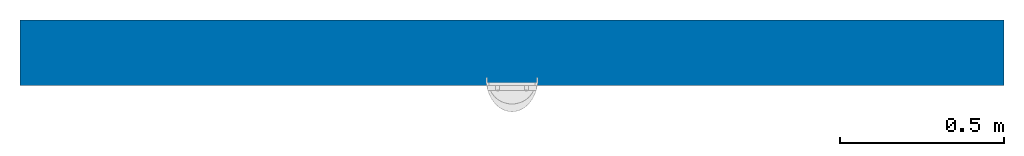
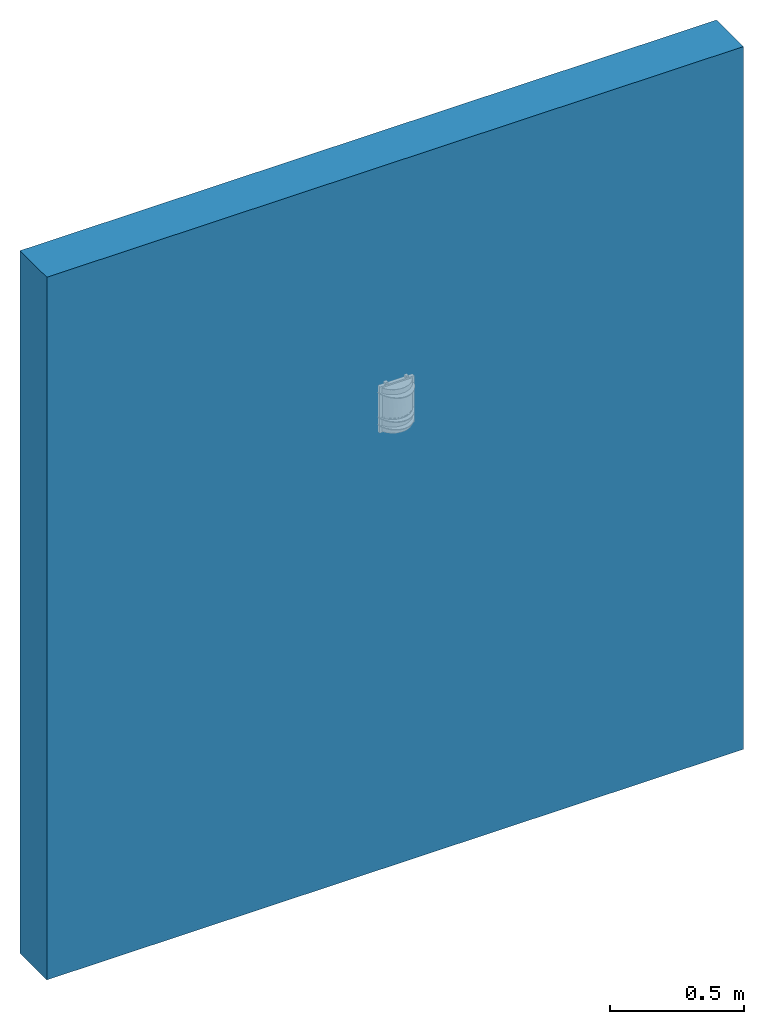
# One storey, part 1 of 2: 1 wall, 2 openings.
"""IFC2X3 building model written with IfcOpenShell, lengths in metres."""

from ifc_helpers import new_model, si_unit, direction, frame, frame_2d, origin, place, context, subcontext, project, spatial, rectangle, extrude, faceted_brep, material, layer, layer_set, layer_usage, type_object, element, save


model = new_model("IFC2X3")

# Units and contexts
model_context = context("Model", 3, precision=1e-05, world=origin(), true_north=direction((6.123233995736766e-17, 1.0)))
body_context = subcontext(model_context, "Body", "Model", "MODEL_VIEW")
ifc_project = project(units=[si_unit("LENGTHUNIT", "METRE"), si_unit("AREAUNIT", "SQUARE_METRE")], contexts=[model_context])

# Site, building, storey
site_placement = place(None, origin())
site = spatial("IfcSite", under=ifc_project, at=site_placement, Name="Default", CompositionType="ELEMENT")
building_placement = place(site_placement, origin())
building = spatial("IfcBuilding", under=site, at=building_placement, CompositionType="ELEMENT")
storey_placement = place(building_placement, origin())
storey = spatial("IfcBuildingStorey", under=building, at=storey_placement, Name="Level 1", CompositionType="ELEMENT", Elevation=0.0)

# Wall, openings
ifc_material = material(Name="Default Wall")
ifc_layer = layer(ifc_material, 0.2)
ifc_layer_set = layer_set([ifc_layer], Name="Basic Wall:Wall 20cm2")
ifc_layer_usage = layer_usage(ifc_layer_set, "AXIS2", "NEGATIVE", 0.1)
wall_type = type_object("IfcWallType", Name="Basic Wall:Wall 20cm2", PredefinedType="STANDARD", material=ifc_layer_set)
wall_placement = place(storey_placement, frame((-8.711268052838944, 4.085779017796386, 0.0)))
wall = element("IfcWallStandardCase", 1, at=wall_placement, inside=storey, type_object=wall_type, material=ifc_layer_usage, Name="Basic Wall:Wall 20cm2", ObjectType="Basic Wall:Wall 20cm2", context=body_context, shape_type="SweptSolid", body=[
    extrude(rectangle(XDim=3.0000000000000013, YDim=0.2, at=frame_2d((1.5000000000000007, -2.0816681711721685e-17), x_axis=(-1.0, 0.0))), origin(), (0.0, 0.0, 1.0), 3.2),
])
opening_1_placement = place(wall_placement, frame((8.711268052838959, -4.085779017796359, 2.0)))
element("IfcOpeningElement", 2, at=opening_1_placement, cuts=wall, Name="Basic Wall:Wall 20cm2", ObjectType="Opening", context=body_context, shape_type="Brep", body=[
    faceted_brep([(-7.254268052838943, 3.970255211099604, 0.2173858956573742), (-7.2562680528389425, 3.970255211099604, 0.2173858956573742), (-7.2562680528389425, 3.970255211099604, 0.2158999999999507), (-7.2577680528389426, 3.970255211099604, 0.2158999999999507), (-7.2577680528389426, 3.970255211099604, 0.21409999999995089), (-7.2562680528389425, 3.970255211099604, 0.21409999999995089), (-7.2562680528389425, 3.970255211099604, 0.21259999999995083), (-7.254268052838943, 3.970255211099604, 0.21259999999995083), (-7.254268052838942, 3.970255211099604, 0.21409999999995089), (-7.252765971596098, 3.970255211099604, 0.21409999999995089), (-7.252765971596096, 3.970255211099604, 0.2158999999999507), (-7.254268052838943, 3.970255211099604, 0.2158999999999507), (-7.254668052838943, 3.9716252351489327, 0.21698589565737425), (-7.254668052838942, 3.9716252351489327, 0.21549999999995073), (-7.253165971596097, 3.9716252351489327, 0.21549999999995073), (-7.253165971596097, 3.9716252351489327, 0.2144999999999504), (-7.254668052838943, 3.9716252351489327, 0.21449999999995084), (-7.254668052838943, 3.9716252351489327, 0.21299999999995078), (-7.2558680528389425, 3.9716252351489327, 0.21299999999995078), (-7.2558680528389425, 3.9716252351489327, 0.2144999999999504), (-7.257368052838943, 3.9716252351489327, 0.21449999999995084), (-7.257368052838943, 3.9716252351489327, 0.21549999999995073), (-7.2558680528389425, 3.9716252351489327, 0.21549999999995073), (-7.2558680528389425, 3.9716252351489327, 0.21698589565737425)], [[[0, 1, 2, 3, 4, 5, 6, 7, 8, 9, 10, 11]], [[12, 13, 14, 15, 16, 17, 18, 19, 20, 21, 22, 23]], [[12, 23, 1, 0]], [[23, 22, 2, 1]], [[22, 21, 3, 2]], [[21, 20, 4, 3]], [[20, 19, 5, 4]], [[19, 18, 6, 5]], [[18, 17, 7, 6]], [[17, 16, 8, 7]], [[16, 15, 9, 8]], [[15, 14, 10, 9]], [[14, 13, 11, 10]], [[13, 12, 0, 11]]]),
])
opening_2_placement = place(wall_placement, frame((8.711268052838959, -4.085779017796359, 2.0)))
element("IfcOpeningElement", 3, at=opening_2_placement, cuts=wall, Name="Basic Wall:Wall 20cm2", ObjectType="Opening", context=body_context, shape_type="Brep", body=[
    faceted_brep([(-7.1662680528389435, 3.970255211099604, 0.21738589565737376), (-7.168268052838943, 3.970255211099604, 0.21738589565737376), (-7.168268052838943, 3.970255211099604, 0.21589999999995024), (-7.1697680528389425, 3.970255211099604, 0.2158999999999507), (-7.1697680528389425, 3.970255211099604, 0.21409999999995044), (-7.168268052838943, 3.970255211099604, 0.21409999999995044), (-7.168268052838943, 3.970255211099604, 0.21259999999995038), (-7.1662680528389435, 3.970255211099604, 0.21259999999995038), (-7.166268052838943, 3.970255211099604, 0.21409999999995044), (-7.164765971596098, 3.970255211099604, 0.21409999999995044), (-7.164765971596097, 3.970255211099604, 0.21589999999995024), (-7.1662680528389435, 3.970255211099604, 0.2158999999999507), (-7.1666680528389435, 3.9716252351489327, 0.2169858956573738), (-7.166668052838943, 3.9716252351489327, 0.2154999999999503), (-7.165165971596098, 3.9716252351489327, 0.2154999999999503), (-7.165165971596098, 3.9716252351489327, 0.2144999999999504), (-7.1666680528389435, 3.9716252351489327, 0.2144999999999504), (-7.1666680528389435, 3.9716252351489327, 0.21299999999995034), (-7.167868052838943, 3.9716252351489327, 0.21299999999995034), (-7.167868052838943, 3.9716252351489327, 0.2144999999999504), (-7.1693680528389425, 3.9716252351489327, 0.2144999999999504), (-7.1693680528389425, 3.9716252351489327, 0.2154999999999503), (-7.167868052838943, 3.9716252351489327, 0.2154999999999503), (-7.167868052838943, 3.9716252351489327, 0.2169858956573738)], [[[0, 1, 2, 3, 4, 5, 6, 7, 8, 9, 10, 11]], [[12, 13, 14, 15, 16, 17, 18, 19, 20, 21, 22, 23]], [[12, 23, 1, 0]], [[23, 22, 2, 1]], [[22, 21, 3, 2]], [[21, 20, 4, 3]], [[20, 19, 5, 4]], [[19, 18, 6, 5]], [[18, 17, 7, 6]], [[17, 16, 8, 7]], [[16, 15, 9, 8]], [[15, 14, 10, 9]], [[14, 13, 11, 10]], [[13, 12, 0, 11]]]),
])

save(model, "model.ifc")
